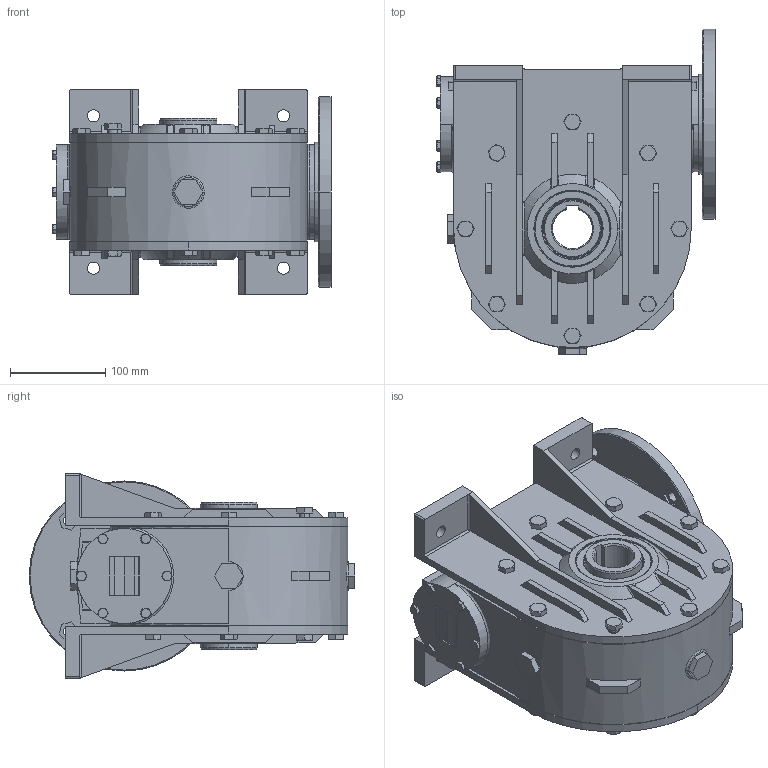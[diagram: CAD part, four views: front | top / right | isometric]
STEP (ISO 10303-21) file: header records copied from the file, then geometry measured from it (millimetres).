
FILE_DESCRIPTION (( 'STEP AP203' ), '1' );
FILE_NAME ('3F002370.STEP', '2012-07-24T06:06:06', ( 'Amministratore' ), ( 'SerteK sas' ), 'SwSTEP 2.0', 'SolidWorks 2009', '' );
FILE_SCHEMA (( 'CONFIG_CONTROL_DESIGN' ));
Length unit declared in the file: millimetre
Products named in the file (1): 3F002370
Bounding box: 292.5 x 342.5 x 215.3 mm (x, y, z)
Surface area: 976845 mm2 (no closed solid volume)
Topology: 0 solids, 42 shells, 2311 faces, 5750 edges, 3566 vertices
Faces by surface type: plane 795, cylinder 751, bspline 395, cone 370
Entity records: 97500 total; most frequent: CARTESIAN_POINT 44319, ORIENTED_EDGE 11296, DIRECTION 10967, EDGE_CURVE 5660, AXIS2_PLACEMENT_3D 4290, VERTEX_POINT 3562, EDGE_LOOP 2530, LINE 2387
